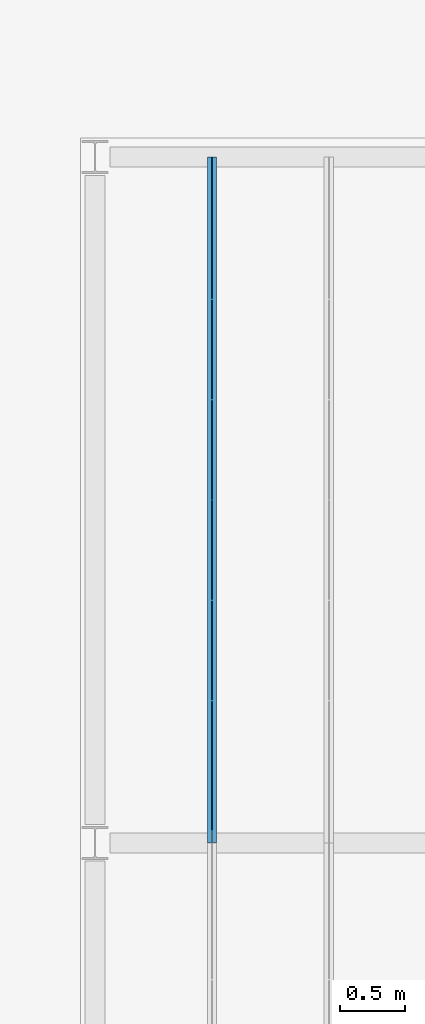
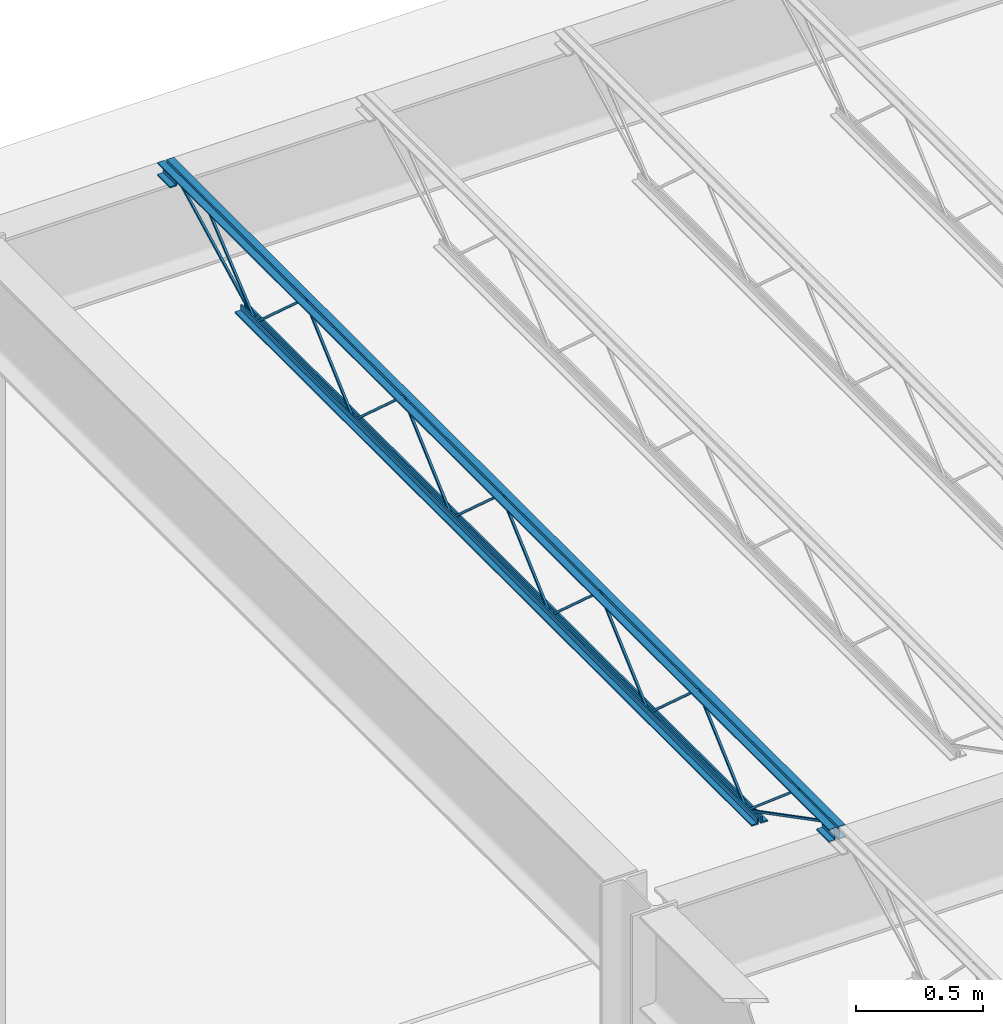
# One storey, part 75 of 119: 1 beam.
"""IFC2X3 building model written with IfcOpenShell, lengths in metres."""

from ifc_helpers import new_model, entity, si_unit, converted_unit, frame, origin, place, context, project, spatial, face_set, surface_model, element, save


model = new_model("IFC2X3")

# Units and contexts
model_context = context("Model", 3, precision=1e-09, world=origin())
plan_context = context("Plan", 3, precision=1e-09, world=origin())
ifc_project = project(units=[si_unit("LENGTHUNIT", "METRE"), si_unit("AREAUNIT", "SQUARE_METRE"), si_unit("VOLUMEUNIT", "CUBIC_METRE"), converted_unit("PLANEANGLEUNIT", "DEGREE", entity("IfcRatioMeasure", 0.01745329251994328), si_unit("PLANEANGLEUNIT", "RADIAN"), dimensions=[0, 0, 0, 0, 0, 0, 0]), si_unit("TIMEUNIT", "SECOND")], contexts=[model_context, plan_context])

# Site, building, storey
site_placement = place(None, origin())
site = spatial("IfcSite", under=ifc_project, at=site_placement, Name="Default", CompositionType="ELEMENT")
building_placement = place(site_placement, origin())
building = spatial("IfcBuilding", under=site, at=building_placement, CompositionType="ELEMENT")
storey_placement = place(building_placement, frame((0.0, 0.0, 4.570000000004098)))
storey = spatial("IfcBuildingStorey", under=building, at=storey_placement, Name="Second Floor", CompositionType="ELEMENT", Elevation=4.570000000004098)

# Beam
beam_placement = place(storey_placement, frame((-46.13103571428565, 44.78050000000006, 4.323999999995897), z_axis=(0.0, 0.0, 1.0), x_axis=(-1.0, 0.0, 0.0)))
element("IfcBeam", 1, at=beam_placement, inside=storey, Name="M_K-Series Bar Joist-Rod Web:14K1:14K1", ObjectType="M_K-Series Bar Joist-Rod Web:14K1", context=model_context, shape_type="SurfaceModel", body=[
    surface_model("IfcFaceBasedSurfaceModel", [(-0.0320000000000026, -2.266000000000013, 0.01110000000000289), (-0.0415000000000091, -2.266000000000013, 0.01110000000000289), (-0.0415000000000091, -2.266000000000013, 0.001600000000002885), (-0.0320000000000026, -2.266000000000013, 0.001600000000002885), (-0.04150000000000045, -2.264645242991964, 0.01110000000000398), (-0.0320000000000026, -2.264645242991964, 0.01110000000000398), (-0.04150000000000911, -2.26100475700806, 0.001600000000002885), (-0.04150000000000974, -1.878854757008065, 0.3449000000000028), (-0.04150000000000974, -1.876145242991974, 0.3449000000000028), (-0.04150000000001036, -1.493995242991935, 0.001600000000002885), (-0.04150000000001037, -1.489000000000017, 0.001600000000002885), (-0.04150000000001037, -1.489000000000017, 0.01110000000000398), (-0.04150000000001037, -1.490354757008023, 0.01110000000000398), (-0.04150000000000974, -1.872504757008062, 0.3544000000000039), (-0.04150000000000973, -1.882495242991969, 0.3544000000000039), (-0.03200000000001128, -2.26100475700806, 0.001600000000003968), (-0.03200000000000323, -1.878854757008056, 0.3449000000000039), (-0.03200000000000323, -1.876145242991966, 0.3449000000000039), (-0.03200000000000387, -1.493995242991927, 0.001600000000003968), (-0.03200000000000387, -1.489000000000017, 0.001600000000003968), (-0.03200000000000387, -1.489000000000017, 0.01110000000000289), (-0.03200000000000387, -1.490354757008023, 0.01110000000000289), (-0.03200000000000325, -1.872504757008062, 0.3544000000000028), (-0.03200000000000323, -1.882495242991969, 0.3544000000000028), (-0.03200000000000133, -3.04300000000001, 0.01110000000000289), (-0.04150000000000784, -3.04300000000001, 0.01110000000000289), (-0.04150000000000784, -3.04300000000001, 0.001600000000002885), (-0.03200000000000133, -3.04300000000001, 0.001600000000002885), (-0.04149999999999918, -3.041645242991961, 0.01110000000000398), (-0.03200000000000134, -3.041645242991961, 0.01110000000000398), (-0.04150000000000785, -3.038004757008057, 0.001600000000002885), (-0.04150000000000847, -2.655854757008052, 0.3449000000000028), (-0.04150000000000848, -2.653145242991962, 0.3449000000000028), (-0.0415000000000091, -2.270995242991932, 0.001600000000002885), (-0.0415000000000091, -2.266000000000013, 0.01110000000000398), (-0.0415000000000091, -2.26735475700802, 0.01110000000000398), (-0.04150000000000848, -2.649504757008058, 0.3544000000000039), (-0.04150000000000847, -2.659495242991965, 0.3544000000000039), (-0.03200000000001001, -3.038004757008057, 0.001600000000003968), (-0.03200000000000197, -2.655854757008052, 0.3449000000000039), (-0.03200000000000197, -2.653145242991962, 0.3449000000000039), (-0.0320000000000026, -2.270995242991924, 0.001600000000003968), (-0.0320000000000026, -2.266000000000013, 0.001600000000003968), (-0.0320000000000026, -2.26735475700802, 0.01110000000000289), (-0.03200000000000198, -2.649504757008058, 0.3544000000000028), (-0.03200000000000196, -2.659495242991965, 0.3544000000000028), (-0.03200000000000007, -3.820000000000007, 0.01110000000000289), (-0.04150000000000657, -3.820000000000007, 0.01110000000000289), (-0.04150000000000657, -3.820000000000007, 0.001600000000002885), (-0.03200000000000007, -3.820000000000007, 0.001600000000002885), (-0.04149999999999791, -3.818645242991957, 0.01110000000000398), (-0.03200000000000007, -3.818645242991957, 0.01110000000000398), (-0.04150000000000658, -3.815004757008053, 0.001600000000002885), (-0.0415000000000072, -3.432854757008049, 0.3449000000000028), (-0.04150000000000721, -3.430145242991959, 0.3449000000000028), (-0.04150000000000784, -3.04799524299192, 0.001600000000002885), (-0.04150000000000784, -3.043000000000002, 0.001600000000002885), (-0.04150000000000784, -3.04300000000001, 0.01110000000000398), (-0.04150000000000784, -3.044354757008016, 0.01110000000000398), (-0.04150000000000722, -3.426504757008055, 0.3544000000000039), (-0.0415000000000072, -3.436495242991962, 0.3544000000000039), (-0.03200000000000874, -3.815004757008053, 0.001600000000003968), (-0.0320000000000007, -3.432854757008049, 0.3449000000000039), (-0.0320000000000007, -3.430145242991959, 0.3449000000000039), (-0.03200000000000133, -3.04799524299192, 0.001600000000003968), (-0.03200000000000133, -3.04300000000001, 0.001600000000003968), (-0.03200000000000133, -3.043000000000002, 0.01110000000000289), (-0.03200000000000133, -3.044354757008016, 0.01110000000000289), (-0.03200000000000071, -3.426504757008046, 0.3544000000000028), (-0.0320000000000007, -3.436495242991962, 0.3544000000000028), (-0.03200000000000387, -1.489000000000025, 0.01109999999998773), (-0.04150000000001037, -1.489000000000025, 0.01109999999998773), (-0.04150000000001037, -1.489000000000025, 0.001599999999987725), (-0.03200000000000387, -1.489000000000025, 0.001599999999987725), (-0.04150000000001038, -1.487645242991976, 0.01109999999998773), (-0.03200000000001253, -1.487645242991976, 0.01109999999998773), (-0.04150000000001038, -1.484004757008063, 0.001599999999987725), (-0.04150000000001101, -1.101854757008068, 0.3448999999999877), (-0.04150000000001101, -1.099145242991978, 0.3448999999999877), (-0.04150000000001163, -0.7169952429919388, 0.001599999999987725), (-0.04150000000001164, -0.7120000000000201, 0.001599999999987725), (-0.04150000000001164, -0.7120000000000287, 0.01109999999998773), (-0.04150000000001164, -0.7133547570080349, 0.01109999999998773), (-0.04150000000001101, -1.095504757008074, 0.3543999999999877), (-0.04150000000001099, -1.10549524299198, 0.3543999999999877), (-0.03200000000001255, -1.484004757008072, 0.001599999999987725), (-0.03200000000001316, -1.101854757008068, 0.3448999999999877), (-0.03200000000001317, -1.099145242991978, 0.3448999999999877), (-0.03200000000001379, -0.7169952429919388, 0.001599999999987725), (-0.0320000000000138, -0.7120000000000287, 0.001599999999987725), (-0.03200000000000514, -0.7120000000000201, 0.01109999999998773), (-0.0320000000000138, -0.7133547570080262, 0.01109999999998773), (-0.03200000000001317, -1.095504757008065, 0.3543999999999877), (-0.03200000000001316, -1.10549524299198, 0.3543999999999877), (-0.0319999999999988, -4.597000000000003, 0.01110000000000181), (-0.0415000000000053, -4.597000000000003, 0.01110000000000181), (-0.0415000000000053, -4.597000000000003, 0.001600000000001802), (-0.0319999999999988, -4.597000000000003, 0.001600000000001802), (-0.04149999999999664, -4.595645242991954, 0.01110000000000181), (-0.0319999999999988, -4.595645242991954, 0.01110000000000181), (-0.04150000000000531, -4.592004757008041, 0.001600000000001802), (-0.04150000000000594, -4.209854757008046, 0.3449000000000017), (-0.04150000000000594, -4.207145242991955, 0.3449000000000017), (-0.04150000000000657, -3.824995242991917, 0.001600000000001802), (-0.04150000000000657, -3.819999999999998, 0.001600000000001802), (-0.04150000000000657, -3.820000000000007, 0.01110000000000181), (-0.04150000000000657, -3.821354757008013, 0.01110000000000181), (-0.04150000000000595, -4.203504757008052, 0.3544000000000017), (-0.04150000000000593, -4.213495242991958, 0.3544000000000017), (-0.03200000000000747, -4.592004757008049, 0.001600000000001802), (-0.03199999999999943, -4.209854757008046, 0.3449000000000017), (-0.03199999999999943, -4.207145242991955, 0.3449000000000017), (-0.03200000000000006, -3.824995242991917, 0.001600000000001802), (-0.03200000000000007, -3.820000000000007, 0.001600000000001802), (-0.03200000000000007, -3.819999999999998, 0.01110000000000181), (-0.03200000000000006, -3.821354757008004, 0.01110000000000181), (-0.03199999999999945, -4.203504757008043, 0.3544000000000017), (-0.03199999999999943, -4.21349524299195, 0.3544000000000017), (-0.0415000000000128, 0.0, 0.3559999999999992), (-0.07350000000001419, 0.0, 0.3559999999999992), (-0.07350000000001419, 0.0, 0.3494999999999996), (-0.04800000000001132, 0.0, 0.3494999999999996), (-0.04800000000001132, 0.0, 0.3239999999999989), (-0.0415000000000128, 0.0, 0.3239999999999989), (-0.03200000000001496, 0.0, 0.3559999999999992), (-0.03200000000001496, 0.0, 0.3239999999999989), (-0.02550000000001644, 0.0, 0.3239999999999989), (-0.02550000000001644, 0.0, 0.3494999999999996), (0.0, 0.0, 0.3494999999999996), (0.0, 0.0, 0.3559999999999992), (-0.04150000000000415, -5.309000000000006, 0.3559999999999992), (-0.07350000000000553, -5.309000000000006, 0.3559999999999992), (-0.07350000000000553, -5.309000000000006, 0.3494999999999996), (-0.04800000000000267, -5.309000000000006, 0.3494999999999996), (-0.04800000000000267, -5.309000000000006, 0.3239999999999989), (-0.04150000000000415, -5.309000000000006, 0.3239999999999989), (-0.0320000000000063, -5.309000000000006, 0.3559999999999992), (-0.0320000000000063, -5.309000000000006, 0.3239999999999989), (-0.02550000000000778, -5.309000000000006, 0.3239999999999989), (-0.02550000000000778, -5.309000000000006, 0.3494999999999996), (0.0, -5.309000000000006, 0.3494999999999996), (0.0, -5.309000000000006, 0.3559999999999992), (-0.0319999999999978, -5.20900000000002, 0.2924999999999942), (0.0, -5.20900000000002, 0.2924999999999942), (0.0, -5.20900000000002, 0.2989999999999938), (-0.02549999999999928, -5.20900000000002, 0.2989999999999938), (-0.02549999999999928, -5.20900000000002, 0.3239999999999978), (-0.0319999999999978, -5.20900000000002, 0.3239999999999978), (-0.07349999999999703, -5.20900000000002, 0.2924999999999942), (-0.04149999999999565, -5.20900000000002, 0.2924999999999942), (-0.04149999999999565, -5.20900000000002, 0.3239999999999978), (-0.04799999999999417, -5.20900000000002, 0.3239999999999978), (-0.04799999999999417, -5.20900000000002, 0.2989999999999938), (-0.07349999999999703, -5.20900000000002, 0.2989999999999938), (-0.03199999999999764, -5.309000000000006, 0.2924999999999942), (0.0, -5.309000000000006, 0.2924999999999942), (0.0, -5.309000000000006, 0.2989999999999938), (-0.02549999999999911, -5.309000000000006, 0.2989999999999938), (-0.02549999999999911, -5.309000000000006, 0.3239999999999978), (-0.03199999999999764, -5.309000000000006, 0.3239999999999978), (-0.07349999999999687, -5.309000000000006, 0.2924999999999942), (-0.04149999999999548, -5.309000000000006, 0.2924999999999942), (-0.04149999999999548, -5.309000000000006, 0.3239999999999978), (-0.04799999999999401, -5.309000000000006, 0.3239999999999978), (-0.04799999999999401, -5.309000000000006, 0.2989999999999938), (-0.07349999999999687, -5.309000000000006, 0.2989999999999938), (-0.04150000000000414, 0.0, 0.2924999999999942), (-0.04150000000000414, 0.0, 0.3239999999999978), (-0.04800000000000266, 0.0, 0.3239999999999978), (-0.04800000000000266, 0.0, 0.2989999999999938), (-0.07350000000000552, 0.0, 0.2989999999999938), (-0.07350000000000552, 0.0, 0.2924999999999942), (-0.0320000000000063, 0.0, 0.2924999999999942), (0.0, 0.0, 0.2924999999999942), (0.0, 0.0, 0.2989999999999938), (-0.02550000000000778, 0.0, 0.2989999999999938), (-0.02550000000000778, 0.0, 0.3239999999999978), (-0.0320000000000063, 0.0, 0.3239999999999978), (-0.04150000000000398, -0.1000000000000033, 0.2924999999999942), (-0.04150000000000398, -0.1000000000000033, 0.3239999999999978), (-0.0480000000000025, -0.1000000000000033, 0.3239999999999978), (-0.0480000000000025, -0.1000000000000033, 0.2989999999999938), (-0.07350000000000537, -0.1000000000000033, 0.2989999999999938), (-0.07350000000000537, -0.1000000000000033, 0.2924999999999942), (-0.03200000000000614, -0.1000000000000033, 0.2924999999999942), (0.0, -0.1000000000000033, 0.2924999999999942), (0.0, -0.1000000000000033, 0.2989999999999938), (-0.02550000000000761, -0.1000000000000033, 0.2989999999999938), (-0.02550000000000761, -0.1000000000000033, 0.3239999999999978), (-0.03200000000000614, -0.1000000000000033, 0.3239999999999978), (-0.0415000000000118, -0.6119999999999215, 0.0), (-0.0415000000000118, -0.6119999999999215, 0.03199999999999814), (-0.04800000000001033, -0.6119999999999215, 0.03199999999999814), (-0.04800000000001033, -0.6119999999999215, 0.006499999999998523), (-0.0735000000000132, -0.6119999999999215, 0.006499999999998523), (-0.0735000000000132, -0.6119999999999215, 0.0), (-0.03200000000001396, -0.6119999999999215, 0.0), (0.0, -0.6119999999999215, 0.0), (0.0, -0.6119999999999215, 0.006499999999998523), (-0.02550000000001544, -0.6119999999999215, 0.006499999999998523), (-0.02550000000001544, -0.6119999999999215, 0.03199999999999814), (-0.03200000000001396, -0.6119999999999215, 0.03199999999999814), (-0.04150000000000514, -4.696999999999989, 0.0), (-0.04150000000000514, -4.696999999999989, 0.03199999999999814), (-0.04800000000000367, -4.696999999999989, 0.03199999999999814), (-0.04800000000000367, -4.696999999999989, 0.006499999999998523), (-0.07350000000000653, -4.696999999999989, 0.006499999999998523), (-0.07350000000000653, -4.696999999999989, 0.0), (-0.0320000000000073, -4.696999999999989, 0.0), (0.0, -4.696999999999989, 0.0), (0.0, -4.696999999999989, 0.006499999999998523), (-0.02550000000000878, -4.696999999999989, 0.006499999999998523), (-0.02550000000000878, -4.696999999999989, 0.03199999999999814), (-0.0320000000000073, -4.696999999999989, 0.03199999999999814), (-0.03199999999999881, -4.594811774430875, 0.01056594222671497), (-0.0415000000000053, -4.594811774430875, 0.01056594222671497), (-0.0415000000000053, -4.599188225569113, 0.00213405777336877), (-0.03199999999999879, -4.599188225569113, 0.00213405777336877), (-0.0319999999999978, -5.207840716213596, 0.3287499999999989), (-0.03199999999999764, -5.308999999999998, 0.3287499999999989), (-0.03199999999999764, -5.308999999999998, 0.3192499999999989), (-0.03199999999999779, -5.210159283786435, 0.3192499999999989), (-0.04149999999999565, -5.210159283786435, 0.3192499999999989), (-0.0415000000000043, -5.207840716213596, 0.3287499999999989), (-0.04150000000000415, -5.308999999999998, 0.3287499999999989), (-0.04150000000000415, -5.309000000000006, 0.3192499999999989), (-0.03199999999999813, -5.005457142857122, 0.3417000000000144), (-0.04150000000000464, -5.005457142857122, 0.3417000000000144), (-0.04150000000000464, -5.005457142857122, 0.3322000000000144), (-0.03199999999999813, -5.005457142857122, 0.3322000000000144), (-0.041499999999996, -4.991034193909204, 0.3417000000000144), (-0.03199999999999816, -4.991034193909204, 0.3417000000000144), (-0.04150000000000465, -4.994480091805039, 0.3322000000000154), (-0.0415000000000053, -4.600045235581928, 0.002704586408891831), (-0.04150000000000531, -4.593954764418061, 0.009995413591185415), (-0.03200000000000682, -4.994480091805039, 0.3322000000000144), (-0.03199999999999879, -4.600045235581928, 0.002704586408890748), (-0.03199999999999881, -4.593954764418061, 0.009995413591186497), (-0.03200000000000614, -0.09781177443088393, 0.3197840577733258), (-0.03200000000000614, -0.1021882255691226, 0.328215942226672), (-0.04150000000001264, -0.1021882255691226, 0.328215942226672), (-0.04150000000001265, -0.09781177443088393, 0.3197840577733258), (-0.03200000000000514, -0.7098117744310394, 0.002134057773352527), (-0.03200000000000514, -0.714188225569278, 0.01056594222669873), (-0.04150000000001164, -0.714188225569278, 0.01056594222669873), (-0.04150000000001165, -0.7098117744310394, 0.002134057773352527), (-0.0320000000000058, -0.3059055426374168, 0.3460340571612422), (-0.0320000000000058, -0.3120658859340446, 0.35326594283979), (-0.04150000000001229, -0.3120658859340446, 0.3532659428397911), (-0.0415000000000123, -0.3059055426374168, 0.3460340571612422), (-0.03200000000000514, -0.7089198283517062, 0.002734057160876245), (-0.03200000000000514, -0.7150801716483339, 0.00996594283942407), (-0.04150000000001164, -0.7150801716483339, 0.00996594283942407), (-0.04150000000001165, -0.7089198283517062, 0.002734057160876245)], [face_set([[[0, 1, 2, 3]], [[1, 4, 5, 0]], [[2, 6, 7, 8, 9, 10, 11, 12, 13, 14, 4, 1]], [[3, 2, 6, 15]], [[0, 3, 15, 16, 17, 18, 19, 20, 21, 22, 23, 5]], [[4, 5, 23, 14]], [[15, 16, 7, 6]], [[14, 13, 22, 23]], [[16, 7, 8, 17]], [[13, 12, 21, 22]], [[17, 8, 9, 18]], [[20, 11, 10, 19]], [[12, 11, 20, 21]], [[18, 9, 10, 19]]]), face_set([[[24, 25, 26, 27]], [[25, 28, 29, 24]], [[26, 30, 31, 32, 33, 2, 34, 35, 36, 37, 28, 25]], [[27, 26, 30, 38]], [[24, 27, 38, 39, 40, 41, 42, 0, 43, 44, 45, 29]], [[28, 29, 45, 37]], [[38, 39, 31, 30]], [[37, 36, 44, 45]], [[39, 31, 32, 40]], [[36, 35, 43, 44]], [[40, 32, 33, 41]], [[0, 34, 2, 42]], [[35, 34, 0, 43]], [[41, 33, 2, 42]]]), face_set([[[46, 47, 48, 49]], [[47, 50, 51, 46]], [[48, 52, 53, 54, 55, 56, 57, 58, 59, 60, 50, 47]], [[49, 48, 52, 61]], [[46, 49, 61, 62, 63, 64, 65, 66, 67, 68, 69, 51]], [[50, 51, 69, 60]], [[61, 62, 53, 52]], [[60, 59, 68, 69]], [[62, 53, 54, 63]], [[59, 58, 67, 68]], [[63, 54, 55, 64]], [[66, 57, 56, 65]], [[58, 57, 66, 67]], [[64, 55, 56, 65]]]), face_set([[[70, 71, 72, 73]], [[71, 74, 75, 70]], [[72, 76, 77, 78, 79, 80, 81, 82, 83, 84, 74, 71]], [[73, 72, 76, 85]], [[70, 73, 85, 86, 87, 88, 89, 90, 91, 92, 93, 75]], [[74, 75, 93, 84]], [[85, 86, 77, 76]], [[84, 83, 92, 93]], [[86, 77, 78, 87]], [[83, 82, 91, 92]], [[87, 78, 79, 88]], [[90, 81, 80, 89]], [[82, 81, 90, 91]], [[88, 79, 80, 89]]]), face_set([[[94, 95, 96, 97]], [[95, 98, 99, 94]], [[96, 100, 101, 102, 103, 104, 105, 106, 107, 108, 98, 95]], [[97, 96, 100, 109]], [[94, 97, 109, 110, 111, 112, 113, 114, 115, 116, 117, 99]], [[98, 99, 117, 108]], [[109, 110, 101, 100]], [[108, 107, 116, 117]], [[110, 101, 102, 111]], [[107, 106, 115, 116]], [[111, 102, 103, 112]], [[114, 105, 104, 113]], [[106, 105, 114, 115]], [[112, 103, 104, 113]]]), face_set([[[118, 119, 120, 121, 122, 123]], [[124, 125, 126, 127, 128, 129]], [[130, 131, 132, 133, 134, 135]], [[136, 137, 138, 139, 140, 141]], [[123, 118, 130, 135]], [[122, 123, 135, 134]], [[121, 133, 134, 122]], [[120, 121, 133, 132]], [[119, 131, 132, 120]], [[118, 130, 131, 119]], [[129, 141, 136, 124]], [[128, 129, 141, 140]], [[127, 128, 140, 139]], [[126, 127, 139, 138]], [[125, 126, 138, 137]], [[124, 136, 137, 125]]]), face_set([[[142, 143, 144, 145, 146, 147]], [[148, 149, 150, 151, 152, 153]], [[154, 155, 156, 157, 158, 159]], [[160, 161, 162, 163, 164, 165]], [[147, 159, 154, 142]], [[146, 158, 159, 147]], [[145, 146, 158, 157]], [[144, 156, 157, 145]], [[143, 144, 156, 155]], [[142, 143, 155, 154]], [[153, 165, 160, 148]], [[152, 164, 165, 153]], [[151, 163, 164, 152]], [[150, 162, 163, 151]], [[149, 150, 162, 161]], [[148, 149, 161, 160]]]), face_set([[[166, 167, 168, 169, 170, 171]], [[172, 173, 174, 175, 176, 177]], [[178, 179, 180, 181, 182, 183]], [[184, 185, 186, 187, 188, 189]], [[171, 166, 178, 183]], [[170, 182, 183, 171]], [[169, 181, 182, 170]], [[168, 180, 181, 169]], [[167, 179, 180, 168]], [[166, 167, 179, 178]], [[177, 189, 184, 172]], [[176, 188, 189, 177]], [[175, 176, 188, 187]], [[174, 186, 187, 175]], [[173, 174, 186, 185]], [[172, 173, 185, 184]]]), face_set([[[190, 191, 192, 193, 194, 195]], [[196, 197, 198, 199, 200, 201]], [[202, 203, 204, 205, 206, 207]], [[208, 209, 210, 211, 212, 213]], [[195, 190, 202, 207]], [[194, 206, 207, 195]], [[193, 205, 206, 194]], [[192, 204, 205, 193]], [[191, 203, 204, 192]], [[190, 191, 203, 202]], [[201, 213, 208, 196]], [[200, 212, 213, 201]], [[199, 200, 212, 211]], [[198, 210, 211, 199]], [[197, 198, 210, 209]], [[196, 197, 209, 208]]]), face_set([[[214, 215, 216, 217]], [[217, 214, 218, 219, 220, 221]], [[216, 217, 221, 222]], [[215, 223, 224, 225, 222, 216]], [[214, 218, 223, 215]], [[219, 224, 225, 220]], [[222, 221, 220, 225]], [[218, 219, 224, 223]]]), face_set([[[226, 227, 228, 229]], [[227, 230, 231, 226]], [[228, 232, 233, 234, 230, 227]], [[229, 228, 232, 235]], [[226, 229, 235, 236, 237, 231]], [[237, 234, 233, 236]], [[230, 234, 237, 231]], [[235, 232, 233, 236]]]), face_set([[[238, 239, 240, 241]], [[242, 243, 244, 245]], [[241, 245, 242, 238]], [[240, 244, 245, 241]], [[239, 240, 244, 243]], [[238, 239, 243, 242]]]), face_set([[[246, 247, 248, 249]], [[250, 251, 252, 253]], [[249, 253, 250, 246]], [[248, 252, 253, 249]], [[247, 248, 252, 251]], [[246, 247, 251, 250]]])]),
])

save(model, "model.ifc")
